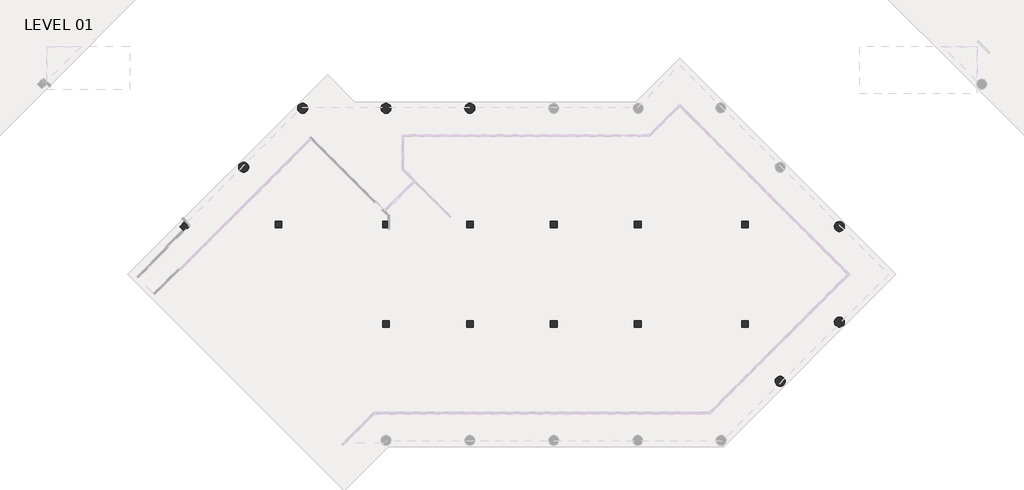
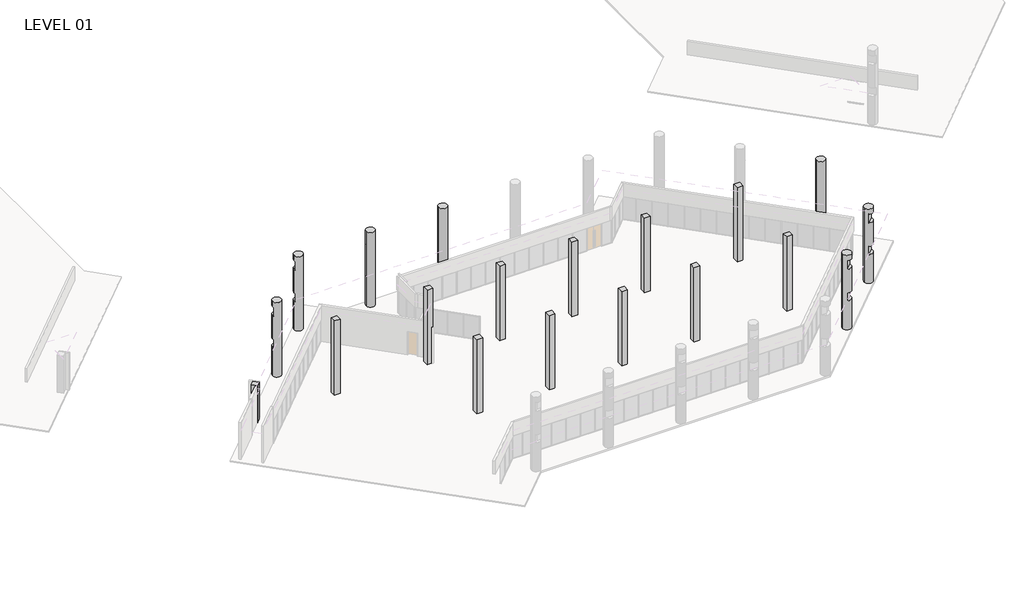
# One storey, part 19 of 24: 19 columns.
"""IFC4 building model written with IfcOpenShell, lengths in millimetres."""

from ifc_helpers import new_model, si_unit, frame, origin, origin_with_axes, place, context, project, spatial, polyline, circle_curve, outline, extrude, transform, mapped, element, save
from ifc_brep_helpers import plane_surface, cylinder_surface, advanced_brep
from components import column_c64340cb

model = new_model("IFC4")

# Units and contexts
model_context = context("Model", 3, world=origin())
ifc_project = project(units=[si_unit("LENGTHUNIT", "METRE", prefix="MILLI")], contexts=[model_context])

# Site, building, storey
site = spatial("IfcSite", under=ifc_project)
building = spatial("IfcBuilding", under=site)
storey = spatial("IfcBuildingStorey", under=building, Name="LEVEL 01", Elevation=0.0)

# Columns
placement = place(None, origin())
element("IfcColumn", 1, ObjectType="Rectangular Column : 24\" x 24\"", at=placement, inside=storey, context=model_context, shape_type="SweptSolid", body=[
    extrude(outline(polyline([(8280.4, 18700.75), (8280.4, 18091.15), (0.0, 18091.15), (0.0, 18542.0), (4013.2, 18542.0), (4013.2, 18700.75), (8280.4, 18700.75)])), frame((0.0, 14707.2828721, 0.0), z_axis=(0.0, 1.0, 0.0), x_axis=(0.0, 0.0, 1.0)), (0.0, 0.0, 1.0), 609.6),
])
element("IfcColumn", 2, ObjectType="Rectangular Column : 24\" x 24\"", at=placement, inside=storey, context=model_context, shape_type="SweptSolid", body=[
    extrude(outline(polyline([(71.842049, 15263.343117), (502.8943428, 14832.2908231), (71.842049, 14401.2385293), (-359.2102448, 14832.2908231), (71.842049, 15263.343117)])), origin_with_axes(), (0.0, 0.0, 1.0), 4140.2),
])
column_shape = column_c64340cb(model_context)
element("IfcColumn", 3, ObjectType="Rectangular Column : 24\" x 24\"", at=placement, inside=storey, context=model_context, shape_type="MappedRepresentation", body=[
    mapped(column_shape, transform((51009.55, 5976.0328721, 0.0), x_axis=(1.0, 0.0, 0.0), y_axis=(0.0, 1.0, 0.0), z_axis=(0.0, 0.0, 1.0))),
])
element("IfcColumn", 4, ObjectType="Rectangular Column : 24\" x 24\"", at=placement, inside=storey, context=model_context, shape_type="MappedRepresentation", body=[
    mapped(column_shape, transform((51009.55, 15012.0828721, 0.0), x_axis=(1.0, 0.0, 0.0), y_axis=(0.0, 1.0, 0.0), z_axis=(0.0, 0.0, 1.0))),
])
element("IfcColumn", 5, ObjectType="Rectangular Column : 24\" x 24\"", at=placement, inside=storey, context=model_context, shape_type="MappedRepresentation", body=[
    mapped(column_shape, transform((41255.95, 5976.0328721, 0.0), x_axis=(1.0, 0.0, 0.0), y_axis=(0.0, 1.0, 0.0), z_axis=(0.0, 0.0, 1.0))),
])
element("IfcColumn", 6, ObjectType="Rectangular Column : 24\" x 24\"", at=placement, inside=storey, context=model_context, shape_type="MappedRepresentation", body=[
    mapped(column_shape, transform((33635.95, 5976.0328721, 0.0), x_axis=(1.0, 0.0, 0.0), y_axis=(0.0, 1.0, 0.0), z_axis=(0.0, 0.0, 1.0))),
])
element("IfcColumn", 7, ObjectType="Rectangular Column : 24\" x 24\"", at=placement, inside=storey, context=model_context, shape_type="MappedRepresentation", body=[
    mapped(column_shape, transform((26015.95, 5976.0328721, 0.0), x_axis=(1.0, 0.0, 0.0), y_axis=(0.0, 1.0, 0.0), z_axis=(0.0, 0.0, 1.0))),
])
element("IfcColumn", 8, ObjectType="Rectangular Column : 24\" x 24\"", at=placement, inside=storey, context=model_context, shape_type="MappedRepresentation", body=[
    mapped(column_shape, transform((18395.95, 5976.0328721, 0.0), x_axis=(1.0, 0.0, 0.0), y_axis=(0.0, 1.0, 0.0), z_axis=(0.0, 0.0, 1.0))),
])
element("IfcColumn", 9, ObjectType="Rectangular Column : 24\" x 24\"", at=placement, inside=storey, context=model_context, shape_type="MappedRepresentation", body=[
    mapped(column_shape, transform((8642.35, 15012.0828721, 0.0), x_axis=(1.0, 0.0, 0.0), y_axis=(0.0, 1.0, 0.0), z_axis=(0.0, 0.0, 1.0))),
])
element("IfcColumn", 10, ObjectType="Rectangular Column : 24\" x 24\"", at=placement, inside=storey, context=model_context, shape_type="MappedRepresentation", body=[
    mapped(column_shape, transform((26015.95, 15012.0828721, 0.0), x_axis=(1.0, 0.0, 0.0), y_axis=(0.0, 1.0, 0.0), z_axis=(0.0, 0.0, 1.0))),
])
element("IfcColumn", 11, ObjectType="Rectangular Column : 24\" x 24\"", at=placement, inside=storey, context=model_context, shape_type="MappedRepresentation", body=[
    mapped(column_shape, transform((33635.95, 15012.0828721, 0.0), x_axis=(1.0, 0.0, 0.0), y_axis=(0.0, 1.0, 0.0), z_axis=(0.0, 0.0, 1.0))),
])
element("IfcColumn", 12, ObjectType="Rectangular Column : 24\" x 24\"", at=placement, inside=storey, context=model_context, shape_type="MappedRepresentation", body=[
    mapped(column_shape, transform((41255.95, 15012.0828721, 0.0), x_axis=(1.0, 0.0, 0.0), y_axis=(0.0, 1.0, 0.0), z_axis=(0.0, 0.0, 1.0))),
])
element("IfcColumn", 13, ObjectType="Round Column : 36\" Diameter", at=placement, inside=storey, context=model_context, shape_type="AdvancedBrep", body=[
    advanced_brep(
    [(11275.2340979, 25578.4828721, 0.0), (10360.8340979, 25578.4828721, 0.0), (10818.0340979, 26035.6828721, 0.0), (11275.2340979, 25578.4828721, 8280.4), (10360.8340979, 25578.4828721, 8280.4), (10360.8340979, 25578.4828721, 7721.6), (10405.4710245, 25381.4459456, 7721.6), (10405.4710245, 25381.4459456, 6731.0), (10360.8340979, 25578.4828721, 6731.0), (10360.8340979, 25578.4828721, 4140.2), (10405.4710245, 25381.4459456, 4140.2), (10405.4710245, 25381.4459456, 3225.8), (10360.8340979, 25578.4828721, 3225.8), (10494.7448776, 25901.7720925, 3225.8), (10818.0340979, 26035.6828721, 3225.8), (11015.0710245, 25991.0459456, 3225.8), (11249.0863917, 25730.8828721, 3225.8), (11249.0863917, 25730.8828721, 4140.2), (11015.0710245, 25991.0459456, 4140.2), (10818.0340979, 26035.6828721, 4140.2), (10818.0340979, 26035.6828721, 6731.0), (11249.0863917, 25730.8828721, 6731.0), (11249.0863917, 25730.8828721, 7721.6), (10818.0340979, 26035.6828721, 7721.6), (10818.0340979, 26035.6828721, 8280.4), (10754.907951, 25730.8828721, 7721.6), (10754.907951, 25730.8828721, 6731.0), (10386.9818041, 25730.8828721, 6731.0), (10386.9818041, 25730.8828721, 7721.6), (10494.7448776, 25901.7720925, 6731.0), (10494.7448776, 25901.7720925, 7721.6), (10754.907951, 25730.8828721, 4140.2), (10754.907951, 25730.8828721, 3225.8), (10494.7448776, 25901.7720925, 4140.2)],
    [
        (0, 1, circle_curve(frame((10818.0340979, 25578.4828721, 0.0), z_axis=(0.0, 0.0, -1.0), x_axis=(1.0, 0.0, 0.0)), 457.2)),
        (1, 2, circle_curve(frame((10818.0340979, 25578.4828721, 0.0), z_axis=(0.0, 0.0, -1.0), x_axis=(1.0, 0.0, 0.0)), 457.2)),
        (2, 0, circle_curve(frame((10818.0340979, 25578.4828721, 0.0), z_axis=(0.0, 0.0, -1.0), x_axis=(1.0, 0.0, 0.0)), 457.2)),
        (0, 3),
        (3, 4, circle_curve(frame((10818.0340979, 25578.4828721, 8280.4), z_axis=(0.0, 0.0, -1.0), x_axis=(1.0, 0.0, 0.0)), 457.2)),
        (4, 5),
        (5, 6, circle_curve(frame((10818.0340979, 25578.4828721, 7721.6), z_axis=(0.0, 0.0, 1.0), x_axis=(1.0, 0.0, 0.0)), 457.2)),
        (6, 7),
        (7, 8, circle_curve(frame((10818.0340979, 25578.4828721, 6731.0), z_axis=(0.0, 0.0, -1.0), x_axis=(1.0, 0.0, 0.0)), 457.2)),
        (8, 9),
        (9, 10, circle_curve(frame((10818.0340979, 25578.4828721, 4140.2), z_axis=(0.0, 0.0, 1.0), x_axis=(1.0, 0.0, 0.0)), 457.2)),
        (10, 11),
        (11, 12, circle_curve(frame((10818.0340979, 25578.4828721, 3225.8), z_axis=(0.0, 0.0, -1.0), x_axis=(1.0, 0.0, 0.0)), 457.2)),
        (12, 1),
        (12, 13, circle_curve(frame((10818.0340979, 25578.4828721, 3225.8), z_axis=(0.0, 0.0, -1.0), x_axis=(1.0, 0.0, 0.0)), 457.2)),
        (13, 14, circle_curve(frame((10818.0340979, 25578.4828721, 3225.8), z_axis=(0.0, 0.0, -1.0), x_axis=(1.0, 0.0, 0.0)), 457.2)),
        (14, 2),
        (14, 15, circle_curve(frame((10818.0340979, 25578.4828721, 3225.8), z_axis=(0.0, 0.0, -1.0), x_axis=(1.0, 0.0, 0.0)), 457.2)),
        (15, 16, circle_curve(frame((10818.0340979, 25578.4828721, 3225.8), z_axis=(0.0, 0.0, -1.0), x_axis=(1.0, 0.0, 0.0)), 457.2)),
        (16, 17),
        (17, 18, circle_curve(frame((10818.0340979, 25578.4828721, 4140.2), z_axis=(0.0, 0.0, 1.0), x_axis=(1.0, 0.0, 0.0)), 457.2)),
        (18, 19, circle_curve(frame((10818.0340979, 25578.4828721, 4140.2), z_axis=(0.0, 0.0, 1.0), x_axis=(1.0, 0.0, 0.0)), 457.2)),
        (19, 20),
        (20, 21, circle_curve(frame((10818.0340979, 25578.4828721, 6731.0), z_axis=(0.0, 0.0, -1.0), x_axis=(1.0, 0.0, 0.0)), 457.2)),
        (21, 22),
        (22, 23, circle_curve(frame((10818.0340979, 25578.4828721, 7721.6), z_axis=(0.0, 0.0, 1.0), x_axis=(1.0, 0.0, 0.0)), 457.2)),
        (23, 24),
        (24, 3, circle_curve(frame((10818.0340979, 25578.4828721, 8280.4), z_axis=(0.0, 0.0, -1.0), x_axis=(1.0, 0.0, 0.0)), 457.2)),
        (24, 4, circle_curve(frame((10818.0340979, 25578.4828721, 8280.4), z_axis=(0.0, 0.0, 1.0), x_axis=(1.0, 0.0, 0.0)), 457.2)),
        (6, 25),
        (25, 26),
        (26, 7),
        (26, 27),
        (27, 8, circle_curve(frame((10818.0340979, 25578.4828721, 6731.0), z_axis=(0.0, 0.0, 1.0), x_axis=(1.0, 0.0, 0.0)), 457.2)),
        (5, 28, circle_curve(frame((10818.0340979, 25578.4828721, 7721.6), z_axis=(0.0, 0.0, -1.0), x_axis=(1.0, 0.0, 0.0)), 457.2)),
        (28, 25),
        (25, 22),
        (21, 26),
        (20, 29, circle_curve(frame((10818.0340979, 25578.4828721, 6731.0), z_axis=(0.0, 0.0, 1.0), x_axis=(1.0, 0.0, 0.0)), 457.2)),
        (29, 27, circle_curve(frame((10818.0340979, 25578.4828721, 6731.0), z_axis=(0.0, 0.0, 1.0), x_axis=(1.0, 0.0, 0.0)), 457.2)),
        (28, 30, circle_curve(frame((10818.0340979, 25578.4828721, 7721.6), z_axis=(0.0, 0.0, -1.0), x_axis=(1.0, 0.0, 0.0)), 457.2)),
        (30, 23, circle_curve(frame((10818.0340979, 25578.4828721, 7721.6), z_axis=(0.0, 0.0, -1.0), x_axis=(1.0, 0.0, 0.0)), 457.2)),
        (10, 31),
        (31, 32),
        (32, 11),
        (32, 15),
        (9, 33, circle_curve(frame((10818.0340979, 25578.4828721, 4140.2), z_axis=(0.0, 0.0, -1.0), x_axis=(1.0, 0.0, 0.0)), 457.2)),
        (33, 19, circle_curve(frame((10818.0340979, 25578.4828721, 4140.2), z_axis=(0.0, 0.0, -1.0), x_axis=(1.0, 0.0, 0.0)), 457.2)),
        (18, 31),
        (31, 17),
        (16, 32),
    ],
    [
        plane_surface(frame((11275.2340979, 25578.4828721, 0.0), z_axis=(0.0, 0.0, -1.0), x_axis=(0.0, -1.0, 0.0))),
        cylinder_surface(frame((10818.0340979, 25578.4828721, 0.0), z_axis=(0.0, 0.0, 1.0), x_axis=(1.0, 0.0, 0.0)), 457.2),
        plane_surface(frame((11275.2340979, 25578.4828721, 8280.4), z_axis=(0.0, 0.0, 1.0), x_axis=(0.0, 1.0, 0.0))),
        plane_surface(frame((-4587.5011469, 10388.4737742, 6731.0), z_axis=(-0.7071067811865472, 0.7071067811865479, 0.0), x_axis=(0.7071067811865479, 0.7071067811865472, 0.0))),
        plane_surface(frame((-4589.6801224, 10386.2947987, 6731.0), z_axis=(0.0, 0.0, 1.0000000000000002), x_axis=(-0.7071067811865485, 0.7071067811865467, 0.0))),
        plane_surface(frame((10799.5448776, 25775.5197987, 7721.6), z_axis=(0.0, 0.0, -1.0000000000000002), x_axis=(-0.707106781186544, 0.7071067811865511, 0.0))),
        plane_surface(frame((15533.4616237, 25730.8828721, 6731.0), z_axis=(0.0, 1.0, 0.0), x_axis=(1.0, 0.0, 0.0))),
        plane_surface(frame((10691.7818041, 25730.8828721, 6731.0), z_axis=(0.0, 0.0, 1.0), x_axis=(0.0, 1.0, 0.0))),
        plane_surface(frame((41171.7818041, 25730.8828721, 7721.6), z_axis=(0.0, 0.0, -1.0), x_axis=(0.0, 1.0, 0.0))),
        plane_surface(frame((7067.85971, 22043.8346311, 3225.8), z_axis=(-0.7071067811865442, 0.7071067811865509, 0.0), x_axis=(0.7071067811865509, 0.7071067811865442, 0.0))),
        plane_surface(frame((251.4471714, 15227.4220925, 3225.8), z_axis=(0.0, 0.0, 1.0000000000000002), x_axis=(-0.7071067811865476, 0.7071067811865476, 0.0))),
        plane_surface(frame((13188.8217139, 28164.796635, 4140.2), z_axis=(0.0, 0.0, -1.0000000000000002), x_axis=(-0.7071067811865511, 0.707106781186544, 0.0))),
        plane_surface(frame((15533.4616237, 25730.8828721, 3225.8), z_axis=(0.0, 1.0, 0.0), x_axis=(1.0, 0.0, 0.0))),
        plane_surface(frame((10691.7818041, 25730.8828721, 3225.8), z_axis=(0.0, 0.0, 1.0), x_axis=(0.0, 1.0, 0.0))),
        plane_surface(frame((41171.7818041, 25730.8828721, 4140.2), z_axis=(0.0, 0.0, -1.0), x_axis=(0.0, 1.0, 0.0))),
    ],
    [
        (0, [[1, 2, 3]]),
        (1, [[-1, 4, 5, 6, 7, 8, 9, 10, 11, 12, 13, 14]]),
        (1, [[-2, -14, 15, 16, 17]]),
        (1, [[-3, -17, 18, 19, 20, 21, 22, 23, 24, 25, 26, 27, 28, -4]]),
        (2, [[-5, -28, 29]]),
        (3, [[30, 31, 32, -8]]),
        (4, [[-32, 33, 34, -9]]),
        (5, [[-30, -7, 35, 36]]),
        (6, [[37, -25, 38, -31]]),
        (7, [[-38, -24, 39, 40, -33]]),
        (8, [[-37, -36, 41, 42, -26]]),
        (1, [[-29, -27, -42, -41, -35, -6]]),
        (9, [[-12, 43, 44, 45]]),
        (10, [[-13, -45, 46, -18, -16, -15]]),
        (11, [[-11, 47, 48, -22, 49, -43]]),
        (1, [[-34, -40, -39, -23, -48, -47, -10]]),
        (12, [[50, -20, 51, -44]]),
        (13, [[-51, -19, -46]]),
        (14, [[-50, -49, -21]]),
    ],
),
])
element("IfcColumn", 14, ObjectType="Round Column : 36\" Diameter", at=placement, inside=storey, context=model_context, shape_type="AdvancedBrep", body=[
    advanced_brep(
    [(18853.15, 25578.4828721, 0.0), (17938.75, 25578.4828721, 0.0), (18395.95, 26035.6828721, 0.0), (18853.15, 25578.4828721, 8280.4), (17938.75, 25578.4828721, 8280.4), (18395.95, 26035.6828721, 8280.4), (18395.95, 26035.6828721, 7721.6), (17964.8977062, 25730.8828721, 7721.6), (17964.8977062, 25730.8828721, 6731.0), (18395.95, 26035.6828721, 6731.0), (18395.95, 26035.6828721, 4140.2), (17964.8977062, 25730.8828721, 4140.2), (17964.8977062, 25730.8828721, 3225.8), (18395.95, 26035.6828721, 3225.8), (18827.0022938, 25730.8828721, 3225.8), (18827.0022938, 25730.8828721, 4140.2), (18827.0022938, 25730.8828721, 6731.0), (18827.0022938, 25730.8828721, 7721.6)],
    [
        (0, 1, circle_curve(frame((18395.95, 25578.4828721, 0.0), z_axis=(0.0, 0.0, -1.0), x_axis=(1.0, 0.0, 0.0)), 457.2)),
        (1, 2, circle_curve(frame((18395.95, 25578.4828721, 0.0), z_axis=(0.0, 0.0, -1.0), x_axis=(1.0, 0.0, 0.0)), 457.2)),
        (2, 0, circle_curve(frame((18395.95, 25578.4828721, 0.0), z_axis=(0.0, 0.0, -1.0), x_axis=(1.0, 0.0, 0.0)), 457.2)),
        (0, 3),
        (3, 4, circle_curve(frame((18395.95, 25578.4828721, 8280.4), z_axis=(0.0, 0.0, -1.0), x_axis=(1.0, 0.0, 0.0)), 457.2)),
        (4, 1),
        (4, 5, circle_curve(frame((18395.95, 25578.4828721, 8280.4), z_axis=(0.0, 0.0, -1.0), x_axis=(1.0, 0.0, 0.0)), 457.2)),
        (5, 6),
        (6, 7, circle_curve(frame((18395.95, 25578.4828721, 7721.6), z_axis=(0.0, 0.0, 1.0), x_axis=(1.0, 0.0, 0.0)), 457.2)),
        (7, 8),
        (8, 9, circle_curve(frame((18395.95, 25578.4828721, 6731.0), z_axis=(0.0, 0.0, -1.0), x_axis=(1.0, 0.0, 0.0)), 457.2)),
        (9, 10),
        (10, 11, circle_curve(frame((18395.95, 25578.4828721, 4140.2), z_axis=(0.0, 0.0, 1.0), x_axis=(1.0, 0.0, 0.0)), 457.2)),
        (11, 12),
        (12, 13, circle_curve(frame((18395.95, 25578.4828721, 3225.8), z_axis=(0.0, 0.0, -1.0), x_axis=(1.0, 0.0, 0.0)), 457.2)),
        (13, 2),
        (13, 14, circle_curve(frame((18395.95, 25578.4828721, 3225.8), z_axis=(0.0, 0.0, -1.0), x_axis=(1.0, 0.0, 0.0)), 457.2)),
        (14, 15),
        (15, 10, circle_curve(frame((18395.95, 25578.4828721, 4140.2), z_axis=(0.0, 0.0, 1.0), x_axis=(1.0, 0.0, 0.0)), 457.2)),
        (9, 16, circle_curve(frame((18395.95, 25578.4828721, 6731.0), z_axis=(0.0, 0.0, -1.0), x_axis=(1.0, 0.0, 0.0)), 457.2)),
        (16, 17),
        (17, 6, circle_curve(frame((18395.95, 25578.4828721, 7721.6), z_axis=(0.0, 0.0, 1.0), x_axis=(1.0, 0.0, 0.0)), 457.2)),
        (5, 3, circle_curve(frame((18395.95, 25578.4828721, 8280.4), z_axis=(0.0, 0.0, -1.0), x_axis=(1.0, 0.0, 0.0)), 457.2)),
        (11, 15),
        (14, 12),
        (7, 17),
        (16, 8),
    ],
    [
        plane_surface(frame((18853.15, 25578.4828721, 0.0), z_axis=(0.0, 0.0, -1.0), x_axis=(0.0, -1.0, 0.0))),
        cylinder_surface(frame((18395.95, 25578.4828721, 0.0), z_axis=(0.0, 0.0, 1.0), x_axis=(1.0, 0.0, 0.0)), 457.2),
        plane_surface(frame((18853.15, 25578.4828721, 8280.4), z_axis=(0.0, 0.0, 1.0), x_axis=(0.0, 1.0, 0.0))),
        plane_surface(frame((15533.4616237, 25730.8828721, 3225.8), z_axis=(0.0, 1.0, 0.0), x_axis=(1.0, 0.0, 0.0))),
        plane_surface(frame((10691.7818041, 25730.8828721, 3225.8), z_axis=(0.0, 0.0, 1.0), x_axis=(0.0, 1.0, 0.0))),
        plane_surface(frame((41171.7818041, 25730.8828721, 4140.2), z_axis=(0.0, 0.0, -1.0), x_axis=(0.0, 1.0, 0.0))),
        plane_surface(frame((15533.4616237, 25730.8828721, 6731.0), z_axis=(0.0, 1.0, 0.0), x_axis=(1.0, 0.0, 0.0))),
        plane_surface(frame((10691.7818041, 25730.8828721, 6731.0), z_axis=(0.0, 0.0, 1.0), x_axis=(0.0, 1.0, 0.0))),
        plane_surface(frame((41171.7818041, 25730.8828721, 7721.6), z_axis=(0.0, 0.0, -1.0), x_axis=(0.0, 1.0, 0.0))),
    ],
    [
        (0, [[1, 2, 3]]),
        (1, [[-1, 4, 5, 6]]),
        (1, [[-2, -6, 7, 8, 9, 10, 11, 12, 13, 14, 15, 16]]),
        (1, [[-3, -16, 17, 18, 19, -12, 20, 21, 22, -8, 23, -4]]),
        (2, [[-5, -23, -7]]),
        (3, [[24, -18, 25, -14]]),
        (4, [[-25, -17, -15]]),
        (5, [[-24, -13, -19]]),
        (6, [[26, -21, 27, -10]]),
        (7, [[-27, -20, -11]]),
        (8, [[-26, -9, -22]]),
    ],
),
])
element("IfcColumn", 15, ObjectType="Round Column : 36\" Diameter", at=placement, inside=storey, context=model_context, shape_type="AdvancedBrep", body=[
    advanced_brep(
    [(26473.15, 25578.4828721, 0.0), (25558.75, 25578.4828721, 0.0), (26015.95, 26035.6828721, 0.0), (26473.15, 25578.4828721, 8280.4), (25558.75, 25578.4828721, 8280.4), (26015.95, 26035.6828721, 8280.4), (26015.95, 26035.6828721, 7721.6), (25584.8977062, 25730.8828721, 7721.6), (25584.8977062, 25730.8828721, 6731.0), (26015.95, 26035.6828721, 6731.0), (26015.95, 26035.6828721, 4140.2), (25584.8977062, 25730.8828721, 4140.2), (25584.8977062, 25730.8828721, 3225.8), (26015.95, 26035.6828721, 3225.8), (26447.0022938, 25730.8828721, 3225.8), (26447.0022938, 25730.8828721, 4140.2), (26447.0022938, 25730.8828721, 6731.0), (26447.0022938, 25730.8828721, 7721.6)],
    [
        (0, 1, circle_curve(frame((26015.95, 25578.4828721, 0.0), z_axis=(0.0, 0.0, -1.0), x_axis=(1.0, 0.0, 0.0)), 457.2)),
        (1, 2, circle_curve(frame((26015.95, 25578.4828721, 0.0), z_axis=(0.0, 0.0, -1.0), x_axis=(1.0, 0.0, 0.0)), 457.2)),
        (2, 0, circle_curve(frame((26015.95, 25578.4828721, 0.0), z_axis=(0.0, 0.0, -1.0), x_axis=(1.0, 0.0, 0.0)), 457.2)),
        (0, 3),
        (3, 4, circle_curve(frame((26015.95, 25578.4828721, 8280.4), z_axis=(0.0, 0.0, -1.0), x_axis=(1.0, 0.0, 0.0)), 457.2)),
        (4, 1),
        (4, 5, circle_curve(frame((26015.95, 25578.4828721, 8280.4), z_axis=(0.0, 0.0, -1.0), x_axis=(1.0, 0.0, 0.0)), 457.2)),
        (5, 6),
        (6, 7, circle_curve(frame((26015.95, 25578.4828721, 7721.6), z_axis=(0.0, 0.0, 1.0), x_axis=(1.0, 0.0, 0.0)), 457.2)),
        (7, 8),
        (8, 9, circle_curve(frame((26015.95, 25578.4828721, 6731.0), z_axis=(0.0, 0.0, -1.0), x_axis=(1.0, 0.0, 0.0)), 457.2)),
        (9, 10),
        (10, 11, circle_curve(frame((26015.95, 25578.4828721, 4140.2), z_axis=(0.0, 0.0, 1.0), x_axis=(1.0, 0.0, 0.0)), 457.2)),
        (11, 12),
        (12, 13, circle_curve(frame((26015.95, 25578.4828721, 3225.8), z_axis=(0.0, 0.0, -1.0), x_axis=(1.0, 0.0, 0.0)), 457.2)),
        (13, 2),
        (13, 14, circle_curve(frame((26015.95, 25578.4828721, 3225.8), z_axis=(0.0, 0.0, -1.0), x_axis=(1.0, 0.0, 0.0)), 457.2)),
        (14, 15),
        (15, 10, circle_curve(frame((26015.95, 25578.4828721, 4140.2), z_axis=(0.0, 0.0, 1.0), x_axis=(1.0, 0.0, 0.0)), 457.2)),
        (9, 16, circle_curve(frame((26015.95, 25578.4828721, 6731.0), z_axis=(0.0, 0.0, -1.0), x_axis=(1.0, 0.0, 0.0)), 457.2)),
        (16, 17),
        (17, 6, circle_curve(frame((26015.95, 25578.4828721, 7721.6), z_axis=(0.0, 0.0, 1.0), x_axis=(1.0, 0.0, 0.0)), 457.2)),
        (5, 3, circle_curve(frame((26015.95, 25578.4828721, 8280.4), z_axis=(0.0, 0.0, -1.0), x_axis=(1.0, 0.0, 0.0)), 457.2)),
        (11, 15),
        (14, 12),
        (7, 17),
        (16, 8),
    ],
    [
        plane_surface(frame((26473.15, 25578.4828721, 0.0), z_axis=(0.0, 0.0, -1.0), x_axis=(0.0, -1.0, 0.0))),
        cylinder_surface(frame((26015.95, 25578.4828721, 0.0), z_axis=(0.0, 0.0, 1.0), x_axis=(1.0, 0.0, 0.0)), 457.2),
        plane_surface(frame((26473.15, 25578.4828721, 8280.4), z_axis=(0.0, 0.0, 1.0), x_axis=(0.0, 1.0, 0.0))),
        plane_surface(frame((15533.4616237, 25730.8828721, 3225.8), z_axis=(0.0, 1.0, 0.0), x_axis=(1.0, 0.0, 0.0))),
        plane_surface(frame((10691.7818041, 25730.8828721, 3225.8), z_axis=(0.0, 0.0, 1.0), x_axis=(0.0, 1.0, 0.0))),
        plane_surface(frame((41171.7818041, 25730.8828721, 4140.2), z_axis=(0.0, 0.0, -1.0), x_axis=(0.0, 1.0, 0.0))),
        plane_surface(frame((15533.4616237, 25730.8828721, 6731.0), z_axis=(0.0, 1.0, 0.0), x_axis=(1.0, 0.0, 0.0))),
        plane_surface(frame((10691.7818041, 25730.8828721, 6731.0), z_axis=(0.0, 0.0, 1.0), x_axis=(0.0, 1.0, 0.0))),
        plane_surface(frame((41171.7818041, 25730.8828721, 7721.6), z_axis=(0.0, 0.0, -1.0), x_axis=(0.0, 1.0, 0.0))),
    ],
    [
        (0, [[1, 2, 3]]),
        (1, [[-1, 4, 5, 6]]),
        (1, [[-2, -6, 7, 8, 9, 10, 11, 12, 13, 14, 15, 16]]),
        (1, [[-3, -16, 17, 18, 19, -12, 20, 21, 22, -8, 23, -4]]),
        (2, [[-5, -23, -7]]),
        (3, [[24, -18, 25, -14]]),
        (4, [[-25, -17, -15]]),
        (5, [[-24, -13, -19]]),
        (6, [[26, -21, 27, -10]]),
        (7, [[-27, -20, -11]]),
        (8, [[-26, -9, -22]]),
    ],
),
])
element("IfcColumn", 16, ObjectType="Round Column : 36\" Diameter", at=placement, inside=storey, context=model_context, shape_type="AdvancedBrep", body=[
    advanced_brep(
    [(60037.257951, 14832.2908231, 0.0), (59122.857951, 14832.2908231, 0.0), (59580.057951, 15289.4908231, 0.0), (60037.257951, 14832.2908231, 3225.8), (59992.6210245, 14635.2538966, 3225.8), (59992.6210245, 14635.2538966, 4140.2), (60037.257951, 14832.2908231, 4140.2), (60037.257951, 14832.2908231, 6731.0), (59992.6210245, 14635.2538966, 6731.0), (59992.6210245, 14635.2538966, 7721.6), (60037.257951, 14832.2908231, 7721.6), (60037.257951, 14832.2908231, 8280.4), (59122.857951, 14832.2908231, 8280.4), (59580.057951, 15289.4908231, 8280.4), (59580.057951, 15289.4908231, 7721.6), (59383.0210245, 15244.8538966, 7721.6), (59383.0210245, 15244.8538966, 6731.0), (59580.057951, 15289.4908231, 6731.0), (59580.057951, 15289.4908231, 4140.2), (59383.0210245, 15244.8538966, 4140.2), (59383.0210245, 15244.8538966, 3225.8), (59580.057951, 15289.4908231, 3225.8), (59903.3471714, 15155.5800435, 3225.8), (59903.3471714, 15155.5800435, 6731.0), (59903.3471714, 15155.5800435, 7721.6), (59903.3471714, 15155.5800435, 4140.2)],
    [
        (0, 1, circle_curve(frame((59580.057951, 14832.2908231, 0.0), z_axis=(0.0, 0.0, -1.0), x_axis=(1.0, 0.0, 0.0)), 457.2)),
        (1, 2, circle_curve(frame((59580.057951, 14832.2908231, 0.0), z_axis=(0.0, 0.0, -1.0), x_axis=(1.0, 0.0, 0.0)), 457.2)),
        (2, 0, circle_curve(frame((59580.057951, 14832.2908231, 0.0), z_axis=(0.0, 0.0, -1.0), x_axis=(1.0, 0.0, 0.0)), 457.2)),
        (0, 3),
        (3, 4, circle_curve(frame((59580.057951, 14832.2908231, 3225.8), z_axis=(0.0, 0.0, -1.0), x_axis=(1.0, 0.0, 0.0)), 457.2)),
        (4, 5),
        (5, 6, circle_curve(frame((59580.057951, 14832.2908231, 4140.2), z_axis=(0.0, 0.0, 1.0), x_axis=(1.0, 0.0, 0.0)), 457.2)),
        (6, 7),
        (7, 8, circle_curve(frame((59580.057951, 14832.2908231, 6731.0), z_axis=(0.0, 0.0, -1.0), x_axis=(1.0, 0.0, 0.0)), 457.2)),
        (8, 9),
        (9, 10, circle_curve(frame((59580.057951, 14832.2908231, 7721.6), z_axis=(0.0, 0.0, 1.0), x_axis=(1.0, 0.0, 0.0)), 457.2)),
        (10, 11),
        (11, 12, circle_curve(frame((59580.057951, 14832.2908231, 8280.4), z_axis=(0.0, 0.0, -1.0), x_axis=(1.0, 0.0, 0.0)), 457.2)),
        (12, 1),
        (12, 13, circle_curve(frame((59580.057951, 14832.2908231, 8280.4), z_axis=(0.0, 0.0, -1.0), x_axis=(1.0, 0.0, 0.0)), 457.2)),
        (13, 14),
        (14, 15, circle_curve(frame((59580.057951, 14832.2908231, 7721.6), z_axis=(0.0, 0.0, 1.0), x_axis=(1.0, 0.0, 0.0)), 457.2)),
        (15, 16),
        (16, 17, circle_curve(frame((59580.057951, 14832.2908231, 6731.0), z_axis=(0.0, 0.0, -1.0), x_axis=(1.0, 0.0, 0.0)), 457.2)),
        (17, 18),
        (18, 19, circle_curve(frame((59580.057951, 14832.2908231, 4140.2), z_axis=(0.0, 0.0, 1.0), x_axis=(1.0, 0.0, 0.0)), 457.2)),
        (19, 20),
        (20, 21, circle_curve(frame((59580.057951, 14832.2908231, 3225.8), z_axis=(0.0, 0.0, -1.0), x_axis=(1.0, 0.0, 0.0)), 457.2)),
        (21, 2),
        (21, 22, circle_curve(frame((59580.057951, 14832.2908231, 3225.8), z_axis=(0.0, 0.0, -1.0), x_axis=(1.0, 0.0, 0.0)), 457.2)),
        (22, 3, circle_curve(frame((59580.057951, 14832.2908231, 3225.8), z_axis=(0.0, 0.0, -1.0), x_axis=(1.0, 0.0, 0.0)), 457.2)),
        (11, 13, circle_curve(frame((59580.057951, 14832.2908231, 8280.4), z_axis=(0.0, 0.0, 1.0), x_axis=(1.0, 0.0, 0.0)), 457.2)),
        (15, 9),
        (8, 16),
        (7, 23, circle_curve(frame((59580.057951, 14832.2908231, 6731.0), z_axis=(0.0, 0.0, 1.0), x_axis=(1.0, 0.0, 0.0)), 457.2)),
        (23, 17, circle_curve(frame((59580.057951, 14832.2908231, 6731.0), z_axis=(0.0, 0.0, 1.0), x_axis=(1.0, 0.0, 0.0)), 457.2)),
        (14, 24, circle_curve(frame((59580.057951, 14832.2908231, 7721.6), z_axis=(0.0, 0.0, -1.0), x_axis=(1.0, 0.0, 0.0)), 457.2)),
        (24, 10, circle_curve(frame((59580.057951, 14832.2908231, 7721.6), z_axis=(0.0, 0.0, -1.0), x_axis=(1.0, 0.0, 0.0)), 457.2)),
        (19, 5),
        (4, 20),
        (18, 25, circle_curve(frame((59580.057951, 14832.2908231, 4140.2), z_axis=(0.0, 0.0, -1.0), x_axis=(1.0, 0.0, 0.0)), 457.2)),
        (25, 6, circle_curve(frame((59580.057951, 14832.2908231, 4140.2), z_axis=(0.0, 0.0, -1.0), x_axis=(1.0, 0.0, 0.0)), 457.2)),
    ],
    [
        plane_surface(frame((60037.257951, 14832.2908231, 0.0), z_axis=(0.0, 0.0, -1.0), x_axis=(0.0, -1.0, 0.0))),
        cylinder_surface(frame((59580.057951, 14832.2908231, 0.0), z_axis=(0.0, 0.0, 1.0), x_axis=(1.0, 0.0, 0.0)), 457.2),
        plane_surface(frame((60037.257951, 14832.2908231, 8280.4), z_axis=(0.0, 0.0, 1.0), x_axis=(0.0, 1.0, 0.0))),
        plane_surface(frame((42965.9371939, 31661.9377271, 6731.0), z_axis=(0.7071067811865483, 0.7071067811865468, 0.0), x_axis=(0.7071067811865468, -0.7071067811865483, 0.0))),
        plane_surface(frame((44958.1869265, 29669.6879945, 6731.0), z_axis=(0.0, 0.0, 1.0000000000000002), x_axis=(0.7071067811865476, 0.7071067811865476, 0.0))),
        plane_surface(frame((64241.5801224, 10386.2947987, 7721.6), z_axis=(0.0, 0.0, -1.0000000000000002), x_axis=(0.7071067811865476, 0.7071067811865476, 0.0))),
        plane_surface(frame((44850.4238531, 29777.451068, 3225.8), z_axis=(0.7071067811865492, 0.7071067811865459, 0.0), x_axis=(0.7071067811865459, -0.7071067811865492, 0.0))),
        plane_surface(frame((48696.3448776, 25931.5300435, 3225.8), z_axis=(0.0, 0.0, 1.0), x_axis=(0.7071067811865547, 0.7071067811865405, 0.0))),
        plane_surface(frame((64241.5801224, 10386.2947987, 4140.2), z_axis=(0.0, 0.0, -1.0), x_axis=(0.7071067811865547, 0.7071067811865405, 0.0))),
    ],
    [
        (0, [[1, 2, 3]]),
        (1, [[-1, 4, 5, 6, 7, 8, 9, 10, 11, 12, 13, 14]]),
        (1, [[-2, -14, 15, 16, 17, 18, 19, 20, 21, 22, 23, 24]]),
        (1, [[-3, -24, 25, 26, -4]]),
        (2, [[-13, 27, -15]]),
        (3, [[28, -10, 29, -18]]),
        (4, [[-29, -9, 30, 31, -19]]),
        (5, [[-28, -17, 32, 33, -11]]),
        (1, [[-27, -12, -33, -32, -16]]),
        (6, [[34, -6, 35, -22]]),
        (7, [[-35, -5, -26, -25, -23]]),
        (8, [[-34, -21, 36, 37, -7]]),
        (1, [[-31, -30, -8, -37, -36, -20]]),
    ],
),
])
element("IfcColumn", 17, ObjectType="Round Column : 36\" Diameter", at=placement, inside=storey, context=model_context, shape_type="AdvancedBrep", body=[
    advanced_brep(
    [(60037.257951, 6155.8249211, 0.0), (59122.857951, 6155.8249211, 0.0), (59580.057951, 6613.0249211, 0.0), (60037.257951, 6155.8249211, 3225.8), (59903.3471714, 5832.5357007, 3225.8), (59383.0210245, 5743.2618476, 3225.8), (59383.0210245, 5743.2618476, 4140.2), (59903.3471714, 5832.5357007, 4140.2), (60037.257951, 6155.8249211, 4140.2), (60037.257951, 6155.8249211, 6731.0), (59903.3471714, 5832.5357007, 6731.0), (59383.0210245, 5743.2618476, 6731.0), (59383.0210245, 5743.2618476, 7721.6), (59903.3471714, 5832.5357007, 7721.6), (60037.257951, 6155.8249211, 7721.6), (60037.257951, 6155.8249211, 8280.4), (59122.857951, 6155.8249211, 8280.4), (59580.057951, 6613.0249211, 8280.4), (59992.6210245, 6352.8618476, 7721.6), (59992.6210245, 6352.8618476, 6731.0), (59992.6210245, 6352.8618476, 4140.2), (59992.6210245, 6352.8618476, 3225.8)],
    [
        (0, 1, circle_curve(frame((59580.057951, 6155.8249211, 0.0), z_axis=(0.0, 0.0, -1.0), x_axis=(1.0, 0.0, 0.0)), 457.2)),
        (1, 2, circle_curve(frame((59580.057951, 6155.8249211, 0.0), z_axis=(0.0, 0.0, -1.0), x_axis=(1.0, 0.0, 0.0)), 457.2)),
        (2, 0, circle_curve(frame((59580.057951, 6155.8249211, 0.0), z_axis=(0.0, 0.0, -1.0), x_axis=(1.0, 0.0, 0.0)), 457.2)),
        (0, 3),
        (3, 4, circle_curve(frame((59580.057951, 6155.8249211, 3225.8), z_axis=(0.0, 0.0, -1.0), x_axis=(1.0, 0.0, 0.0)), 457.2)),
        (4, 5, circle_curve(frame((59580.057951, 6155.8249211, 3225.8), z_axis=(0.0, 0.0, -1.0), x_axis=(1.0, 0.0, 0.0)), 457.2)),
        (5, 6),
        (6, 7, circle_curve(frame((59580.057951, 6155.8249211, 4140.2), z_axis=(0.0, 0.0, 1.0), x_axis=(1.0, 0.0, 0.0)), 457.2)),
        (7, 8, circle_curve(frame((59580.057951, 6155.8249211, 4140.2), z_axis=(0.0, 0.0, 1.0), x_axis=(1.0, 0.0, 0.0)), 457.2)),
        (8, 9),
        (9, 10, circle_curve(frame((59580.057951, 6155.8249211, 6731.0), z_axis=(0.0, 0.0, -1.0), x_axis=(1.0, 0.0, 0.0)), 457.2)),
        (10, 11, circle_curve(frame((59580.057951, 6155.8249211, 6731.0), z_axis=(0.0, 0.0, -1.0), x_axis=(1.0, 0.0, 0.0)), 457.2)),
        (11, 12),
        (12, 13, circle_curve(frame((59580.057951, 6155.8249211, 7721.6), z_axis=(0.0, 0.0, 1.0), x_axis=(1.0, 0.0, 0.0)), 457.2)),
        (13, 14, circle_curve(frame((59580.057951, 6155.8249211, 7721.6), z_axis=(0.0, 0.0, 1.0), x_axis=(1.0, 0.0, 0.0)), 457.2)),
        (14, 15),
        (15, 16, circle_curve(frame((59580.057951, 6155.8249211, 8280.4), z_axis=(0.0, 0.0, -1.0), x_axis=(1.0, 0.0, 0.0)), 457.2)),
        (16, 1),
        (16, 17, circle_curve(frame((59580.057951, 6155.8249211, 8280.4), z_axis=(0.0, 0.0, -1.0), x_axis=(1.0, 0.0, 0.0)), 457.2)),
        (17, 2),
        (17, 15, circle_curve(frame((59580.057951, 6155.8249211, 8280.4), z_axis=(0.0, 0.0, -1.0), x_axis=(1.0, 0.0, 0.0)), 457.2)),
        (14, 18, circle_curve(frame((59580.057951, 6155.8249211, 7721.6), z_axis=(0.0, 0.0, 1.0), x_axis=(1.0, 0.0, 0.0)), 457.2)),
        (18, 19),
        (19, 9, circle_curve(frame((59580.057951, 6155.8249211, 6731.0), z_axis=(0.0, 0.0, -1.0), x_axis=(1.0, 0.0, 0.0)), 457.2)),
        (8, 20, circle_curve(frame((59580.057951, 6155.8249211, 4140.2), z_axis=(0.0, 0.0, 1.0), x_axis=(1.0, 0.0, 0.0)), 457.2)),
        (20, 21),
        (21, 3, circle_curve(frame((59580.057951, 6155.8249211, 3225.8), z_axis=(0.0, 0.0, -1.0), x_axis=(1.0, 0.0, 0.0)), 457.2)),
        (20, 6),
        (5, 21),
        (18, 12),
        (11, 19),
    ],
    [
        plane_surface(frame((60037.257951, 6155.8249211, 0.0), z_axis=(0.0, 0.0, -1.0), x_axis=(0.0, -1.0, 0.0))),
        cylinder_surface(frame((59580.057951, 6155.8249211, 0.0), z_axis=(0.0, 0.0, 1.0), x_axis=(1.0, 0.0, 0.0)), 457.2),
        plane_surface(frame((60037.257951, 6155.8249211, 8280.4), z_axis=(0.0, 0.0, 1.0), x_axis=(0.0, 1.0, 0.0))),
        plane_surface(frame((64421.1852448, 10781.426068, 3225.8), z_axis=(0.707106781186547, -0.7071067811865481, 0.0), x_axis=(-0.7071067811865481, -0.707106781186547, 0.0))),
        plane_surface(frame((64241.5801224, 10601.8209456, 3225.8), z_axis=(0.0, 0.0, 1.0000000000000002), x_axis=(0.7071067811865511, -0.707106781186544, 0.0))),
        plane_surface(frame((48852.3551224, -4787.4040544, 4140.2), z_axis=(0.0, 0.0, -1.0000000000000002), x_axis=(0.7071067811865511, -0.707106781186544, 0.0))),
        plane_surface(frame((64421.1852448, 10781.426068, 6731.0), z_axis=(0.7071067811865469, -0.7071067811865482, 0.0), x_axis=(-0.7071067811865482, -0.7071067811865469, 0.0))),
        plane_surface(frame((64241.5801224, 10601.8209456, 6731.0), z_axis=(0.0, 0.0, 1.0000000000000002), x_axis=(0.7071067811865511, -0.707106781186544, 0.0))),
        plane_surface(frame((48852.3551224, -4787.4040544, 7721.6), z_axis=(0.0, 0.0, -1.0000000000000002), x_axis=(0.7071067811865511, -0.707106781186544, 0.0))),
    ],
    [
        (0, [[1, 2, 3]]),
        (1, [[-1, 4, 5, 6, 7, 8, 9, 10, 11, 12, 13, 14, 15, 16, 17, 18]]),
        (1, [[-2, -18, 19, 20]]),
        (1, [[-3, -20, 21, -16, 22, 23, 24, -10, 25, 26, 27, -4]]),
        (2, [[-17, -21, -19]]),
        (3, [[28, -7, 29, -26]]),
        (4, [[-29, -6, -5, -27]]),
        (5, [[-28, -25, -9, -8]]),
        (6, [[30, -13, 31, -23]]),
        (7, [[-31, -12, -11, -24]]),
        (8, [[-30, -22, -15, -14]]),
    ],
),
])
element("IfcColumn", 18, ObjectType="Round Column : 36\" Diameter", at=placement, inside=storey, context=model_context, shape_type="AdvancedBrep", body=[
    advanced_brep(
    [(54649.282951, 767.8499211, 0.0), (53734.882951, 767.8499211, 0.0), (54192.082951, 1225.0499211, 0.0), (54649.282951, 767.8499211, 3225.8), (54515.3721714, 444.5607007, 3225.8), (53995.0460245, 355.2868476, 3225.8), (53995.0460245, 355.2868476, 4140.2), (54515.3721714, 444.5607007, 4140.2), (54649.282951, 767.8499211, 4140.2), (54649.282951, 767.8499211, 6731.0), (54515.3721714, 444.5607007, 6731.0), (53995.0460245, 355.2868476, 6731.0), (53995.0460245, 355.2868476, 7721.6), (54515.3721714, 444.5607007, 7721.6), (54649.282951, 767.8499211, 7721.6), (54649.282951, 767.8499211, 8280.4), (53734.882951, 767.8499211, 8280.4), (54192.082951, 1225.0499211, 8280.4), (54604.6460245, 964.8868476, 7721.6), (54604.6460245, 964.8868476, 6731.0), (54604.6460245, 964.8868476, 4140.2), (54604.6460245, 964.8868476, 3225.8)],
    [
        (0, 1, circle_curve(frame((54192.082951, 767.8499211, 0.0), z_axis=(0.0, 0.0, -1.0), x_axis=(1.0, 0.0, 0.0)), 457.2)),
        (1, 2, circle_curve(frame((54192.082951, 767.8499211, 0.0), z_axis=(0.0, 0.0, -1.0), x_axis=(1.0, 0.0, 0.0)), 457.2)),
        (2, 0, circle_curve(frame((54192.082951, 767.8499211, 0.0), z_axis=(0.0, 0.0, -1.0), x_axis=(1.0, 0.0, 0.0)), 457.2)),
        (0, 3),
        (3, 4, circle_curve(frame((54192.082951, 767.8499211, 3225.8), z_axis=(0.0, 0.0, -1.0), x_axis=(1.0, 0.0, 0.0)), 457.2)),
        (4, 5, circle_curve(frame((54192.082951, 767.8499211, 3225.8), z_axis=(0.0, 0.0, -1.0), x_axis=(1.0, 0.0, 0.0)), 457.2)),
        (5, 6),
        (6, 7, circle_curve(frame((54192.082951, 767.8499211, 4140.2), z_axis=(0.0, 0.0, 1.0), x_axis=(1.0, 0.0, 0.0)), 457.2)),
        (7, 8, circle_curve(frame((54192.082951, 767.8499211, 4140.2), z_axis=(0.0, 0.0, 1.0), x_axis=(1.0, 0.0, 0.0)), 457.2)),
        (8, 9),
        (9, 10, circle_curve(frame((54192.082951, 767.8499211, 6731.0), z_axis=(0.0, 0.0, -1.0), x_axis=(1.0, 0.0, 0.0)), 457.2)),
        (10, 11, circle_curve(frame((54192.082951, 767.8499211, 6731.0), z_axis=(0.0, 0.0, -1.0), x_axis=(1.0, 0.0, 0.0)), 457.2)),
        (11, 12),
        (12, 13, circle_curve(frame((54192.082951, 767.8499211, 7721.6), z_axis=(0.0, 0.0, 1.0), x_axis=(1.0, 0.0, 0.0)), 457.2)),
        (13, 14, circle_curve(frame((54192.082951, 767.8499211, 7721.6), z_axis=(0.0, 0.0, 1.0), x_axis=(1.0, 0.0, 0.0)), 457.2)),
        (14, 15),
        (15, 16, circle_curve(frame((54192.082951, 767.8499211, 8280.4), z_axis=(0.0, 0.0, -1.0), x_axis=(1.0, 0.0, 0.0)), 457.2)),
        (16, 1),
        (16, 17, circle_curve(frame((54192.082951, 767.8499211, 8280.4), z_axis=(0.0, 0.0, -1.0), x_axis=(1.0, 0.0, 0.0)), 457.2)),
        (17, 2),
        (17, 15, circle_curve(frame((54192.082951, 767.8499211, 8280.4), z_axis=(0.0, 0.0, -1.0), x_axis=(1.0, 0.0, 0.0)), 457.2)),
        (14, 18, circle_curve(frame((54192.082951, 767.8499211, 7721.6), z_axis=(0.0, 0.0, 1.0), x_axis=(1.0, 0.0, 0.0)), 457.2)),
        (18, 19),
        (19, 9, circle_curve(frame((54192.082951, 767.8499211, 6731.0), z_axis=(0.0, 0.0, -1.0), x_axis=(1.0, 0.0, 0.0)), 457.2)),
        (8, 20, circle_curve(frame((54192.082951, 767.8499211, 4140.2), z_axis=(0.0, 0.0, 1.0), x_axis=(1.0, 0.0, 0.0)), 457.2)),
        (20, 21),
        (21, 3, circle_curve(frame((54192.082951, 767.8499211, 3225.8), z_axis=(0.0, 0.0, -1.0), x_axis=(1.0, 0.0, 0.0)), 457.2)),
        (20, 6),
        (5, 21),
        (18, 12),
        (11, 19),
    ],
    [
        plane_surface(frame((54649.282951, 767.8499211, 0.0), z_axis=(0.0, 0.0, -1.0), x_axis=(0.0, -1.0, 0.0))),
        cylinder_surface(frame((54192.082951, 767.8499211, 0.0), z_axis=(0.0, 0.0, 1.0), x_axis=(1.0, 0.0, 0.0)), 457.2),
        plane_surface(frame((54649.282951, 767.8499211, 8280.4), z_axis=(0.0, 0.0, 1.0), x_axis=(0.0, 1.0, 0.0))),
        plane_surface(frame((64421.1852448, 10781.426068, 3225.8), z_axis=(0.707106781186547, -0.7071067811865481, 0.0), x_axis=(-0.7071067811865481, -0.707106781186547, 0.0))),
        plane_surface(frame((64241.5801224, 10601.8209456, 3225.8), z_axis=(0.0, 0.0, 1.0000000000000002), x_axis=(0.7071067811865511, -0.707106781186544, 0.0))),
        plane_surface(frame((48852.3551224, -4787.4040544, 4140.2), z_axis=(0.0, 0.0, -1.0000000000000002), x_axis=(0.7071067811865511, -0.707106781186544, 0.0))),
        plane_surface(frame((64421.1852448, 10781.426068, 6731.0), z_axis=(0.7071067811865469, -0.7071067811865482, 0.0), x_axis=(-0.7071067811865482, -0.7071067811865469, 0.0))),
        plane_surface(frame((64241.5801224, 10601.8209456, 6731.0), z_axis=(0.0, 0.0, 1.0000000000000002), x_axis=(0.7071067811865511, -0.707106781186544, 0.0))),
        plane_surface(frame((48852.3551224, -4787.4040544, 7721.6), z_axis=(0.0, 0.0, -1.0000000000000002), x_axis=(0.7071067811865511, -0.707106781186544, 0.0))),
    ],
    [
        (0, [[1, 2, 3]]),
        (1, [[-1, 4, 5, 6, 7, 8, 9, 10, 11, 12, 13, 14, 15, 16, 17, 18]]),
        (1, [[-2, -18, 19, 20]]),
        (1, [[-3, -20, 21, -16, 22, 23, 24, -10, 25, 26, 27, -4]]),
        (2, [[-17, -21, -19]]),
        (3, [[28, -7, 29, -26]]),
        (4, [[-29, -6, -5, -27]]),
        (5, [[-28, -25, -9, -8]]),
        (6, [[30, -13, 31, -23]]),
        (7, [[-31, -12, -11, -24]]),
        (8, [[-30, -22, -15, -14]]),
    ],
),
])
element("IfcColumn", 19, ObjectType="Round Column : 36\" Diameter", at=placement, inside=storey, context=model_context, shape_type="AdvancedBrep", body=[
    advanced_brep(
    [(5917.017049, 20220.2658231, 0.0), (5002.617049, 20220.2658231, 0.0), (5459.817049, 20677.4658231, 0.0), (5917.017049, 20220.2658231, 8280.4), (5002.617049, 20220.2658231, 8280.4), (5002.617049, 20220.2658231, 7721.6), (5047.2539755, 20023.2288966, 7721.6), (5047.2539755, 20023.2288966, 6731.0), (5002.617049, 20220.2658231, 6731.0), (5002.617049, 20220.2658231, 4140.2), (5047.2539755, 20023.2288966, 4140.2), (5047.2539755, 20023.2288966, 3225.8), (5002.617049, 20220.2658231, 3225.8), (5136.5278286, 20543.5550435, 3225.8), (5459.817049, 20677.4658231, 3225.8), (5656.8539755, 20632.8288966, 3225.8), (5656.8539755, 20632.8288966, 4140.2), (5459.817049, 20677.4658231, 4140.2), (5459.817049, 20677.4658231, 6731.0), (5656.8539755, 20632.8288966, 6731.0), (5656.8539755, 20632.8288966, 7721.6), (5459.817049, 20677.4658231, 7721.6), (5459.817049, 20677.4658231, 8280.4), (5136.5278286, 20543.5550435, 6731.0), (5136.5278286, 20543.5550435, 7721.6), (5136.5278286, 20543.5550435, 4140.2)],
    [
        (0, 1, circle_curve(frame((5459.817049, 20220.2658231, 0.0), z_axis=(0.0, 0.0, -1.0), x_axis=(1.0, 0.0, 0.0)), 457.2)),
        (1, 2, circle_curve(frame((5459.817049, 20220.2658231, 0.0), z_axis=(0.0, 0.0, -1.0), x_axis=(1.0, 0.0, 0.0)), 457.2)),
        (2, 0, circle_curve(frame((5459.817049, 20220.2658231, 0.0), z_axis=(0.0, 0.0, -1.0), x_axis=(1.0, 0.0, 0.0)), 457.2)),
        (0, 3),
        (3, 4, circle_curve(frame((5459.817049, 20220.2658231, 8280.4), z_axis=(0.0, 0.0, -1.0), x_axis=(1.0, 0.0, 0.0)), 457.2)),
        (4, 5),
        (5, 6, circle_curve(frame((5459.817049, 20220.2658231, 7721.6), z_axis=(0.0, 0.0, 1.0), x_axis=(1.0, 0.0, 0.0)), 457.2)),
        (6, 7),
        (7, 8, circle_curve(frame((5459.817049, 20220.2658231, 6731.0), z_axis=(0.0, 0.0, -1.0), x_axis=(1.0, 0.0, 0.0)), 457.2)),
        (8, 9),
        (9, 10, circle_curve(frame((5459.817049, 20220.2658231, 4140.2), z_axis=(0.0, 0.0, 1.0), x_axis=(1.0, 0.0, 0.0)), 457.2)),
        (10, 11),
        (11, 12, circle_curve(frame((5459.817049, 20220.2658231, 3225.8), z_axis=(0.0, 0.0, -1.0), x_axis=(1.0, 0.0, 0.0)), 457.2)),
        (12, 1),
        (12, 13, circle_curve(frame((5459.817049, 20220.2658231, 3225.8), z_axis=(0.0, 0.0, -1.0), x_axis=(1.0, 0.0, 0.0)), 457.2)),
        (13, 14, circle_curve(frame((5459.817049, 20220.2658231, 3225.8), z_axis=(0.0, 0.0, -1.0), x_axis=(1.0, 0.0, 0.0)), 457.2)),
        (14, 2),
        (14, 15, circle_curve(frame((5459.817049, 20220.2658231, 3225.8), z_axis=(0.0, 0.0, -1.0), x_axis=(1.0, 0.0, 0.0)), 457.2)),
        (15, 16),
        (16, 17, circle_curve(frame((5459.817049, 20220.2658231, 4140.2), z_axis=(0.0, 0.0, 1.0), x_axis=(1.0, 0.0, 0.0)), 457.2)),
        (17, 18),
        (18, 19, circle_curve(frame((5459.817049, 20220.2658231, 6731.0), z_axis=(0.0, 0.0, -1.0), x_axis=(1.0, 0.0, 0.0)), 457.2)),
        (19, 20),
        (20, 21, circle_curve(frame((5459.817049, 20220.2658231, 7721.6), z_axis=(0.0, 0.0, 1.0), x_axis=(1.0, 0.0, 0.0)), 457.2)),
        (21, 22),
        (22, 3, circle_curve(frame((5459.817049, 20220.2658231, 8280.4), z_axis=(0.0, 0.0, -1.0), x_axis=(1.0, 0.0, 0.0)), 457.2)),
        (22, 4, circle_curve(frame((5459.817049, 20220.2658231, 8280.4), z_axis=(0.0, 0.0, 1.0), x_axis=(1.0, 0.0, 0.0)), 457.2)),
        (6, 20),
        (19, 7),
        (18, 23, circle_curve(frame((5459.817049, 20220.2658231, 6731.0), z_axis=(0.0, 0.0, 1.0), x_axis=(1.0, 0.0, 0.0)), 457.2)),
        (23, 8, circle_curve(frame((5459.817049, 20220.2658231, 6731.0), z_axis=(0.0, 0.0, 1.0), x_axis=(1.0, 0.0, 0.0)), 457.2)),
        (5, 24, circle_curve(frame((5459.817049, 20220.2658231, 7721.6), z_axis=(0.0, 0.0, -1.0), x_axis=(1.0, 0.0, 0.0)), 457.2)),
        (24, 21, circle_curve(frame((5459.817049, 20220.2658231, 7721.6), z_axis=(0.0, 0.0, -1.0), x_axis=(1.0, 0.0, 0.0)), 457.2)),
        (10, 16),
        (15, 11),
        (9, 25, circle_curve(frame((5459.817049, 20220.2658231, 4140.2), z_axis=(0.0, 0.0, -1.0), x_axis=(1.0, 0.0, 0.0)), 457.2)),
        (25, 17, circle_curve(frame((5459.817049, 20220.2658231, 4140.2), z_axis=(0.0, 0.0, -1.0), x_axis=(1.0, 0.0, 0.0)), 457.2)),
    ],
    [
        plane_surface(frame((5917.017049, 20220.2658231, 0.0), z_axis=(0.0, 0.0, -1.0), x_axis=(0.0, -1.0, 0.0))),
        cylinder_surface(frame((5459.817049, 20220.2658231, 0.0), z_axis=(0.0, 0.0, 1.0), x_axis=(1.0, 0.0, 0.0)), 457.2),
        plane_surface(frame((5917.017049, 20220.2658231, 8280.4), z_axis=(0.0, 0.0, 1.0), x_axis=(0.0, 1.0, 0.0))),
        plane_surface(frame((-4587.5011469, 10388.4737742, 6731.0), z_axis=(-0.7071067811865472, 0.7071067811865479, 0.0), x_axis=(0.7071067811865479, 0.7071067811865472, 0.0))),
        plane_surface(frame((-4589.6801224, 10386.2947987, 6731.0), z_axis=(0.0, 0.0, 1.0000000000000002), x_axis=(-0.7071067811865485, 0.7071067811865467, 0.0))),
        plane_surface(frame((10799.5448776, 25775.5197987, 7721.6), z_axis=(0.0, 0.0, -1.0000000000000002), x_axis=(-0.707106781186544, 0.7071067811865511, 0.0))),
        plane_surface(frame((7067.85971, 22043.8346311, 3225.8), z_axis=(-0.7071067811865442, 0.7071067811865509, 0.0), x_axis=(0.7071067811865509, 0.7071067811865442, 0.0))),
        plane_surface(frame((251.4471714, 15227.4220925, 3225.8), z_axis=(0.0, 0.0, 1.0000000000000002), x_axis=(-0.7071067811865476, 0.7071067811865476, 0.0))),
        plane_surface(frame((13188.8217139, 28164.796635, 4140.2), z_axis=(0.0, 0.0, -1.0000000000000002), x_axis=(-0.7071067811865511, 0.707106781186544, 0.0))),
    ],
    [
        (0, [[1, 2, 3]]),
        (1, [[-1, 4, 5, 6, 7, 8, 9, 10, 11, 12, 13, 14]]),
        (1, [[-2, -14, 15, 16, 17]]),
        (1, [[-3, -17, 18, 19, 20, 21, 22, 23, 24, 25, 26, -4]]),
        (2, [[-5, -26, 27]]),
        (3, [[28, -23, 29, -8]]),
        (4, [[-29, -22, 30, 31, -9]]),
        (5, [[-28, -7, 32, 33, -24]]),
        (1, [[-27, -25, -33, -32, -6]]),
        (6, [[34, -19, 35, -12]]),
        (7, [[-35, -18, -16, -15, -13]]),
        (8, [[-34, -11, 36, 37, -20]]),
        (1, [[-31, -30, -21, -37, -36, -10]]),
    ],
),
])

save(model, "model.ifc")
